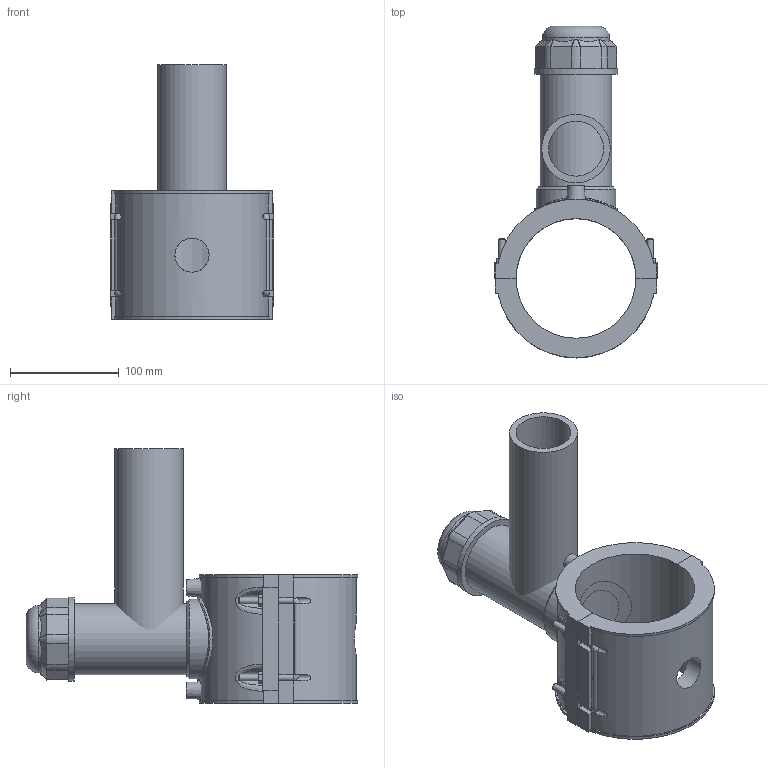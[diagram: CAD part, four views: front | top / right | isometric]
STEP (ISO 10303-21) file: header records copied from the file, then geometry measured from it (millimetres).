
FILE_DESCRIPTION(/* description */ (''),/* implementation_level */ '2;1');
FILE_NAME(/* name */ 'C:\Dropbox\KIMPROJECTS-Inventor 2019\99-16-3568-Processing\ElectroFusion Fittings\4963P4\stp\4963P4110063.stp',/* time_stamp */ '2022-03-17T11:28:14+02:00',/* author */ ('KIM'),/* organization */ (''),/* preprocessor_version */ 'ST-DEVELOPER v17.2',/* originating_system */ 'Autodesk Inventor 2019',/* authorisation */ '');
FILE_SCHEMA (('AUTOMOTIVE_DESIGN { 1 0 10303 214 3 1 1 }'));
Length unit declared in the file: millimetre
Products named in the file (1): 4963P4110063
Bounding box: 150 x 304.93 x 234 mm (x, y, z)
Volume: 1336599.3 mm3; surface area: 263671.1 mm2
Topology: 3 solids, 3 shells, 218 faces, 563 edges, 364 vertices
Faces by surface type: plane 125, cylinder 52, bspline 25, cone 15, torus 1
Full cylindrical faces by diameter (mm): 4 x2, 6 x8, 10 x2, 31.36 x1, 50.4 x1, 53.9 x1, 61.6 x1, 63 x1, 65.45 x1, 73.15 x1, 77 x2
Entity records: 8231 total; most frequent: CARTESIAN_POINT 2967, ORIENTED_EDGE 1126, DIRECTION 1011, EDGE_CURVE 563, VERTEX_POINT 364, AXIS2_PLACEMENT_3D 347, LINE 317, VECTOR 317
